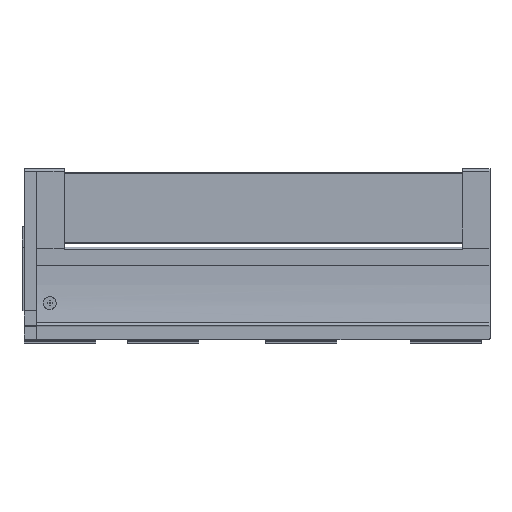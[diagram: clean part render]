
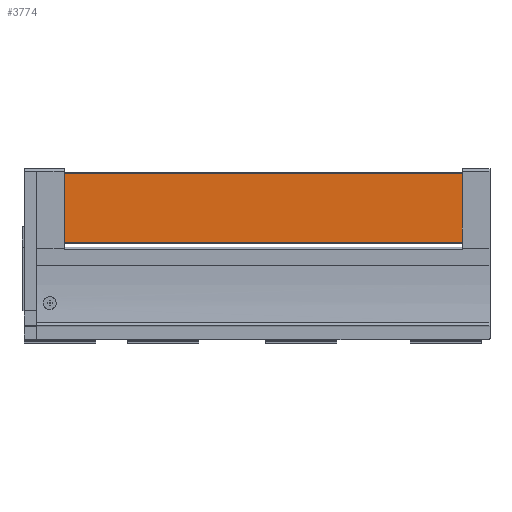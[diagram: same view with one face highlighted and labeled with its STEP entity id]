
A CAD part, left-side view. The second image highlights one B-rep face of the part: STEP entity #3774.
In plain terms, the highlighted planar face has unit normal (-1, 0, 0).
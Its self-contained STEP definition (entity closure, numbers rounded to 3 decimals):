
#41 = ORIENTED_EDGE ( 'NONE', *, *, #6818, .F. ) ;
#42 = ORIENTED_EDGE ( 'NONE', *, *, #6782, .F. ) ;
#43 = ORIENTED_EDGE ( 'NONE', *, *, #6033, .T. ) ;
#44 = ORIENTED_EDGE ( 'NONE', *, *, #6892, .T. ) ;
#501 = CARTESIAN_POINT ( 'NONE',  ( -9.6, 695., 87.298 ) ) ;
#508 = DIRECTION ( 'NONE',  ( 0., -1., 0. ) ) ;
#2122 = LINE ( 'NONE', #6462, #2123 ) ;
#2123 = VECTOR ( 'NONE', #6463, 1000. ) ;
#2166 = LINE ( 'NONE', #6544, #2167 ) ;
#2167 = VECTOR ( 'NONE', #6546, 1000. ) ;
#2277 = LINE ( 'NONE', #6754, #2278 ) ;
#2278 = VECTOR ( 'NONE', #6756, 1000. ) ;
#2298 = VERTEX_POINT ( 'NONE', #2516 ) ;
#2516 = CARTESIAN_POINT ( 'NONE',  ( -9.6, 35.3, 174.798 ) ) ;
#2803 = PLANE ( 'NONE',  #6784 ) ;
#2806 = CARTESIAN_POINT ( 'NONE',  ( -9.6, 695., 174.798 ) ) ;
#2812 = DIRECTION ( 'NONE',  ( -1., 0., 0. ) ) ;
#2813 = DIRECTION ( 'NONE',  ( 0., 0., -1. ) ) ;
#3535 = CARTESIAN_POINT ( 'NONE',  ( -9.6, 539.3, 174.798 ) ) ;
#3549 = CARTESIAN_POINT ( 'NONE',  ( -9.6, 539.3, 87.298 ) ) ;
#3634 = CARTESIAN_POINT ( 'NONE',  ( -9.6, 35.3, 87.298 ) ) ;
#3774 = ADVANCED_FACE ( 'NONE', ( #5092 ), #2803, .T. ) ;
#4021 = VERTEX_POINT ( 'NONE', #3535 ) ;
#4035 = VERTEX_POINT ( 'NONE', #3549 ) ;
#4097 = VERTEX_POINT ( 'NONE', #3634 ) ;
#4986 = EDGE_LOOP ( 'NONE', ( #44, #43, #42, #41 ) ) ;
#5092 = FACE_OUTER_BOUND ( 'NONE', #4986, .T. ) ;
#5471 = VECTOR ( 'NONE', #508, 1000. ) ;
#5475 = LINE ( 'NONE', #501, #5471 ) ;
#6033 = EDGE_CURVE ( 'NONE', #4035, #4097, #5475, .T. ) ;
#6462 = CARTESIAN_POINT ( 'NONE',  ( -9.6, 35.3, 174.798 ) ) ;
#6463 = DIRECTION ( 'NONE',  ( 0., 0., -1. ) ) ;
#6544 = CARTESIAN_POINT ( 'NONE',  ( -9.6, 695., 174.798 ) ) ;
#6546 = DIRECTION ( 'NONE',  ( 0., -1., 0. ) ) ;
#6754 = CARTESIAN_POINT ( 'NONE',  ( -9.6, 539.3, 174.798 ) ) ;
#6756 = DIRECTION ( 'NONE',  ( 0., 0., -1. ) ) ;
#6782 = EDGE_CURVE ( 'NONE', #2298, #4097, #2122, .T. ) ;
#6784 = AXIS2_PLACEMENT_3D ( 'NONE', #2806, #2812, #2813 ) ;
#6818 = EDGE_CURVE ( 'NONE', #4021, #2298, #2166, .T. ) ;
#6892 = EDGE_CURVE ( 'NONE', #4021, #4035, #2277, .T. ) ;
